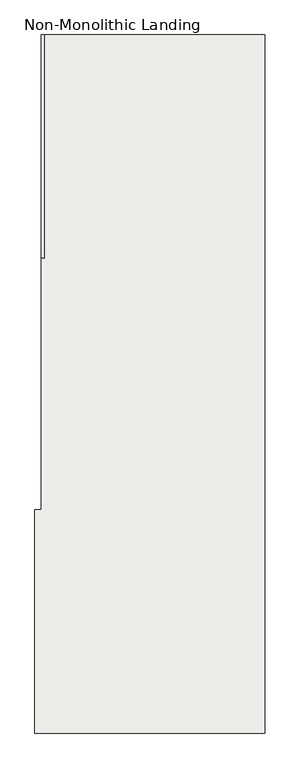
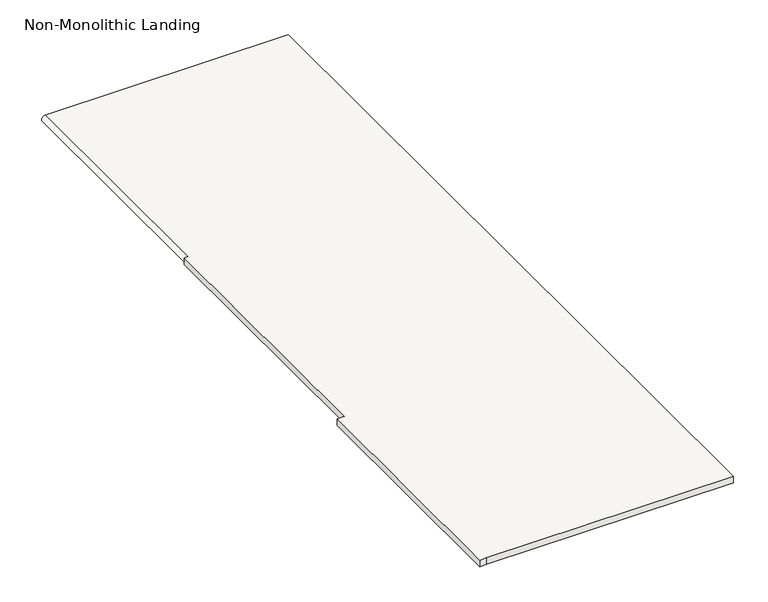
"""IFC4 building model written with IfcOpenShell, lengths in millimetres: slab geometry, Non-Monolithic Landing."""

import ifcopenshell
import ifcopenshell.guid

model = None  # the IFC model being written
_history = None  # IfcOwnerHistory: only IFC2X3 demands one
_inside = {}  # id of a spatial element -> (the spatial element, [elements in it])
_under = {}  # id of a project, library or spatial element -> (it, [spatial elements below it])
_declared = {}  # id of a project -> (the project, [libraries it declares])
_typed = {}  # id of a type object -> (the type object, [elements of that type])
_made_of = {}  # id of a material, layer set ... -> (it, [elements and type objects made of it])


def new_model(schema):
    """Start an empty IFC model of exactly this schema.

    Asked for "IFC4X3", IfcOpenShell would pick the latest addendum, in which some entities
    have other attributes; the version numbers below select the first issue.
    IFC2X3 requires an IfcOwnerHistory on every rooted entity: one is made here for all.
    """
    global model, _history
    if schema == "IFC4X3":
        model = ifcopenshell.file(schema_version=(4, 3, 0, 0))
    else:
        model = ifcopenshell.file(schema=schema)
    _inside.clear()
    _under.clear()
    _declared.clear()
    _typed.clear()
    _made_of.clear()
    _history = None
    if model.schema == "IFC2X3":
        org = make("IfcOrganization", Name="unknown")
        user = make(
            "IfcPersonAndOrganization",
            ThePerson=make("IfcPerson", FamilyName="unknown"),
            TheOrganization=org,
        )
        app = make(
            "IfcApplication",
            ApplicationDeveloper=org,
            Version="unknown",
            ApplicationFullName="unknown",
            ApplicationIdentifier="unknown",
        )
        _history = make(
            "IfcOwnerHistory",
            OwningUser=user,
            OwningApplication=app,
            ChangeAction="ADDED",
            CreationDate=0,
        )
    return model


def make(cls, **values):
    """One entity of the class cls with the attributes given. An attribute that is None is left unset."""
    return model.create_entity(
        cls, **{name: value for name, value in values.items() if value is not None}
    )


def rooted(cls, **values):
    """An entity with a GlobalId (a new one), such as an element, a storey or a relation."""
    return make(cls, GlobalId=ifcopenshell.guid.new(), OwnerHistory=_history, **values)


def si_unit(unit_type, name, prefix=None):
    """IfcSIUnit, for example si_unit("LENGTHUNIT", "METRE", prefix="MILLI")."""
    return make("IfcSIUnit", UnitType=unit_type, Prefix=prefix, Name=name)


def assignment(units):
    """IfcUnitAssignment: the units of a project."""
    return None if units is None else make("IfcUnitAssignment", Units=units)


def point(xyz):
    """IfcCartesianPoint."""
    return None if xyz is None else make("IfcCartesianPoint", Coordinates=xyz)


def direction(xyz):
    """IfcDirection."""
    return None if xyz is None else make("IfcDirection", DirectionRatios=xyz)


def frame(location, z_axis=None, x_axis=None):
    """IfcAxis2Placement3D, a coordinate frame: its origin and axes. An axis left out is left unset."""
    return make(
        "IfcAxis2Placement3D",
        Location=point(location),
        Axis=direction(z_axis),
        RefDirection=direction(x_axis),
    )


def origin():
    """The frame at (0, 0, 0) with its axes left unset."""
    return frame((0.0, 0.0, 0.0))


def place(relative_to, where):
    """IfcLocalPlacement: puts the frame where relative to a parent placement (None: the world)."""
    return make(
        "IfcLocalPlacement", PlacementRelTo=relative_to, RelativePlacement=where
    )


def context(
    kind, dimensions, precision=None, world=None, true_north=None, identifier=None
):
    """IfcGeometricRepresentationContext, for example the 3D "Model" context."""
    return make(
        "IfcGeometricRepresentationContext",
        ContextIdentifier=identifier,
        ContextType=kind,
        CoordinateSpaceDimension=dimensions,
        Precision=precision,
        WorldCoordinateSystem=world,
        TrueNorth=true_north,
    )


def project(units=None, contexts=None):
    """IfcProject with its units and contexts."""
    return rooted(
        "IfcProject",
        Name="project",
        RepresentationContexts=contexts,
        UnitsInContext=assignment(units),
    )


def spatial(cls, under=None, at=None, **own):
    """A site, building, storey or space (cls), placed at a placement, below another one or the project."""
    s = rooted(cls, ObjectPlacement=at, **own)
    if under is not None:
        _under.setdefault(under.id(), (under, []))[1].append(s)
    return s


def circle_curve(where, radius):
    """IfcCircle in the frame where."""
    return make("IfcCircle", Position=where, Radius=radius)


def shape(context_of_items, identifier, shape_type, items):
    """IfcShapeRepresentation: the items that make up one representation, for example the "Body"."""
    return make(
        "IfcShapeRepresentation",
        ContextOfItems=context_of_items,
        RepresentationIdentifier=identifier,
        RepresentationType=shape_type,
        Items=items,
    )


def source(mapping_origin, context_of_items, identifier, shape_type, items):
    """IfcRepresentationMap: a shape defined once, which mapped items show again and again."""
    return make(
        "IfcRepresentationMap",
        MappingOrigin=mapping_origin,
        MappedRepresentation=shape(context_of_items, identifier, shape_type, items),
    )


def transform(
    local_origin,
    x_axis=None,
    y_axis=None,
    z_axis=None,
    scale=None,
    scale2=None,
    scale3=None,
    uniform=True,
):
    """IfcCartesianTransformationOperator3D, or its non-uniform kind. x_axis, y_axis, z_axis: its Axis1, 2, 3."""
    if uniform:
        return make(
            "IfcCartesianTransformationOperator3D",
            Axis1=direction(x_axis),
            Axis2=direction(y_axis),
            LocalOrigin=point(local_origin),
            Scale=scale,
            Axis3=direction(z_axis),
        )
    return make(
        "IfcCartesianTransformationOperator3DnonUniform",
        Axis1=direction(x_axis),
        Axis2=direction(y_axis),
        LocalOrigin=point(local_origin),
        Scale=scale,
        Axis3=direction(z_axis),
        Scale2=scale2,
        Scale3=scale3,
    )


def mapped(mapping_source, mapping_target):
    """IfcMappedItem: shows the shape of a source again, moved by a transform."""
    return make(
        "IfcMappedItem", MappingSource=mapping_source, MappingTarget=mapping_target
    )


def made_of(thing, what):
    """Note that an element or type object is made of a material, layer set ...; save() writes the relation."""
    if what is not None:
        _made_of.setdefault(what.id(), (what, []))[1].append(thing)
    return thing


def element(
    cls,
    number,
    at=None,
    inside=None,
    cuts=None,
    type_object=None,
    material=None,
    context=None,
    identifier="Body",
    shape_type=None,
    held_by="IfcProductDefinitionShape",
    body=None,
    shapes=None,
    **own,
):
    """One element of the class cls, such as IfcWall. Its Tag is "e" and its number.

    at: its placement. inside: the storey or other place that contains it. cuts: it is an
    opening in that element (IfcRelVoidsElement). A single representation is given by context,
    identifier, shape_type and body (its items); several are given by shapes. held_by: the class
    of the entity that holds the representations. save() writes the other relations.
    """
    e = rooted(cls, Tag="e%d" % number, ObjectPlacement=at, **own)
    if body is not None:
        shapes = [shape(context, identifier, shape_type, body)]
    if shapes is not None:
        e.Representation = make(held_by, Representations=shapes)
    if inside is not None:
        _inside.setdefault(inside.id(), (inside, []))[1].append(e)
    if cuts is not None:
        rooted(
            "IfcRelVoidsElement", RelatingBuildingElement=cuts, RelatedOpeningElement=e
        )
    if type_object is not None:
        _typed.setdefault(type_object.id(), (type_object, []))[1].append(e)
    return made_of(e, material)


def aggregate(whole, parts):
    """IfcRelAggregates: a whole, such as a stair, and the parts it consists of."""
    return rooted("IfcRelAggregates", RelatingObject=whole, RelatedObjects=parts)


def save(model, path):
    """Write the relations noted so far, then the file.

    IfcRelAggregates (storeys below a building ...), IfcRelContainedInSpatialStructure (elements
    in a storey), IfcRelDefinesByType, IfcRelAssociatesMaterial and IfcRelDeclares: one each for
    every whole, place, type object, material and project.
    """
    for whole, parts in _under.values():
        aggregate(whole, parts)
    for where, things in _inside.values():
        rooted(
            "IfcRelContainedInSpatialStructure",
            RelatedElements=things,
            RelatingStructure=where,
        )
    for kind, things in _typed.values():
        rooted("IfcRelDefinesByType", RelatedObjects=things, RelatingType=kind)
    for what, things in _made_of.values():
        rooted("IfcRelAssociatesMaterial", RelatedObjects=things, RelatingMaterial=what)
    for by, libraries in _declared.values():
        rooted("IfcRelDeclares", RelatingContext=by, RelatedDefinitions=libraries)
    model.write(path)


def plane_surface(at):
    """IfcPlane: the flat surface through the origin of the frame at, square to its z axis."""
    return make("IfcPlane", Position=at)


def cylinder_surface(at, radius):
    """IfcCylindricalSurface: all points at the distance radius from the z axis of the frame at."""
    return make("IfcCylindricalSurface", Position=at, Radius=radius)


def advanced_brep(points, edges, surfaces, faces):
    """IfcAdvancedBrep: a solid bounded by faces that lie on surfaces and meet in shared edges.

    An edge is (start, end): straight between two places in points (the first is 0);
    or (start, end, curve); or (start, end, curve, False) where it runs against its curve.
    A face is (place in surfaces, loops), or (place, loops, False) where it looks against
    its surface's normal. A loop lists edges by number (the first is 1), with a minus sign
    where the edge is run from its end to its start. The first loop is the outer one.
    """
    corners = [point(p) for p in points]
    vertices = [make("IfcVertexPoint", VertexGeometry=c) for c in corners]
    made = []
    for start, end, *more in edges:
        made.append(
            make(
                "IfcEdgeCurve",
                EdgeStart=vertices[start],
                EdgeEnd=vertices[end],
                EdgeGeometry=more[0] if more else make("IfcPolyline", Points=[corners[start], corners[end]]),
                SameSense=more[1] if len(more) > 1 else True,
            )
        )
    hull = []
    for where, loops, *sense in faces:
        bounds = []
        for j, loop in enumerate(loops):
            ring = [make("IfcOrientedEdge", EdgeElement=made[abs(k) - 1], Orientation=k > 0) for k in loop]
            bounds.append(
                make(
                    "IfcFaceOuterBound" if j == 0 else "IfcFaceBound",
                    Bound=make("IfcEdgeLoop", EdgeList=ring),
                    Orientation=True,
                )
            )
        hull.append(make("IfcAdvancedFace", Bounds=bounds, FaceSurface=surfaces[where], SameSense=sense[0] if sense else True))
    return make("IfcAdvancedBrep", Outer=make("IfcClosedShell", CfsFaces=hull))


def non_monolithic_landing_4278ca62(model_context):
    return source(origin(), model_context, "Body", "AdvancedBrep", [
        advanced_brep(
        [(55964.0203872, 2740.3591714, 1524.0), (55964.0203872, 2740.3591714, 1498.6), (55964.0203872, 1825.9591714, 1498.6), (55951.3203872, 1825.9591714, 1511.3), (55964.0203872, 1825.9591714, 1524.0), (55951.3203872, 1825.9591714, 1524.0), (55951.3203872, 799.1362442, 1524.0), (55925.9203872, 799.1362442, 1524.0), (55925.9203872, -115.2637558, 1524.0), (55951.3203872, -115.2637558, 1524.0), (56865.7203872, -115.2637558, 1524.0), (56865.7203872, 2740.3591714, 1524.0), (55951.3203872, 1825.9591714, 1498.6), (56865.7203872, 2740.3591714, 1498.6), (56865.7203872, -115.2637558, 1498.6), (55951.3203872, -115.2637558, 1498.6), (55925.9203872, -115.2637558, 1498.6), (55925.9203872, 799.1362442, 1498.6), (55951.3203872, 799.1362442, 1498.6)],
        [
            (0, 1, circle_curve(frame((55964.0203872, 2740.3591714, 1511.3), z_axis=(0.0, -1.0, 0.0), x_axis=(1.0, 0.0, 0.0)), 12.7)),
            (1, 2),
            (2, 3, circle_curve(frame((55964.0203872, 1825.9591714, 1511.3), z_axis=(0.0, 1.0, 0.0), x_axis=(1.0, 0.0, 0.0)), 12.7)),
            (3, 4, circle_curve(frame((55964.0203872, 1825.9591714, 1511.3), z_axis=(0.0, 1.0, 0.0), x_axis=(1.0, 0.0, 0.0)), 12.7)),
            (4, 0),
            (4, 5),
            (5, 6),
            (6, 7),
            (7, 8),
            (8, 9),
            (9, 10),
            (10, 11),
            (11, 0),
            (12, 2),
            (1, 13),
            (13, 14),
            (14, 15),
            (15, 16),
            (16, 17),
            (17, 18),
            (18, 12),
            (3, 5),
            (12, 3),
            (18, 6),
            (17, 7),
            (16, 8),
            (15, 9),
            (14, 10),
            (13, 11),
        ],
        [
            cylinder_surface(frame((55964.0203872, 1825.9591714, 1511.3), z_axis=(0.0, -1.0, 0.0), x_axis=(1.0, 0.0, 0.0)), 12.7),
            plane_surface(frame((55964.0203872, 2740.3591714, 1524.0), z_axis=(0.0, 0.0, 1.0), x_axis=(0.0, -1.0, 0.0))),
            plane_surface(frame((55964.0203872, 2740.3591714, 1498.6), z_axis=(0.0, 0.0, -1.0), x_axis=(0.0, 1.0, 0.0))),
            plane_surface(frame((55964.0203872, 1825.9591714, 1524.0), z_axis=(0.0, 1.0, 0.0), x_axis=(0.0, 0.0, -1.0))),
            plane_surface(frame((55951.3203872, 1825.9591714, 1524.0), z_axis=(-1.0, 0.0, 0.0), x_axis=(0.0, 0.0, -1.0))),
            plane_surface(frame((55951.3203872, 799.1362442, 1524.0), z_axis=(0.0, 1.0, 0.0), x_axis=(0.0, 0.0, -1.0))),
            plane_surface(frame((55925.9203872, 799.1362442, 1524.0), z_axis=(-1.0, 0.0, 0.0), x_axis=(0.0, 0.0, -1.0))),
            plane_surface(frame((55925.9203872, -115.2637558, 1524.0), z_axis=(0.0, -1.0, 0.0), x_axis=(0.0, 0.0, -1.0))),
            plane_surface(frame((55951.3203872, -115.2637558, 1524.0), z_axis=(0.0, -1.0, 0.0), x_axis=(0.0, 0.0, -1.0))),
            plane_surface(frame((56865.7203872, -115.2637558, 1524.0), z_axis=(1.0, 0.0, 0.0), x_axis=(0.0, 0.0, -1.0))),
            plane_surface(frame((56865.7203872, 2740.3591714, 1524.0), z_axis=(0.0, 1.0, 0.0), x_axis=(0.0, 0.0, -1.0))),
        ],
        [
            (0, [[1, 2, 3, 4, 5]]),
            (1, [[6, 7, 8, 9, 10, 11, 12, 13, -5]]),
            (2, [[14, -2, 15, 16, 17, 18, 19, 20, 21]]),
            (3, [[-6, -4, 22]]),
            (3, [[-14, 23, -3]]),
            (4, [[-7, -22, -23, -21, 24]]),
            (5, [[-8, -24, -20, 25]]),
            (6, [[-9, -25, -19, 26]]),
            (7, [[-10, -26, -18, 27]]),
            (8, [[-11, -27, -17, 28]]),
            (9, [[-12, -28, -16, 29]]),
            (10, [[-13, -29, -15, -1]]),
        ],
    ),
    ])


if __name__ == "__main__":
    model = new_model("IFC4")
    model_context = context("Model", 3, world=origin())
    ifc_project = project(units=[si_unit("LENGTHUNIT", "METRE", prefix="MILLI")], contexts=[model_context])
    site = spatial("IfcSite", under=ifc_project)
    building = spatial("IfcBuilding", under=site)
    placement = place(None, origin())
    non_monolithic_landing_shape = non_monolithic_landing_4278ca62(model_context)
    element("IfcSlab", 1, ObjectType="Non-Monolithic Landing", at=placement, inside=building, context=model_context, shape_type="MappedRepresentation", body=[
        mapped(non_monolithic_landing_shape, transform((0.0, 0.0, 0.0), x_axis=(1.0, 0.0, 0.0), y_axis=(0.0, 1.0, 0.0), z_axis=(0.0, 0.0, 1.0))),
    ])
    save(model, "model.ifc")
